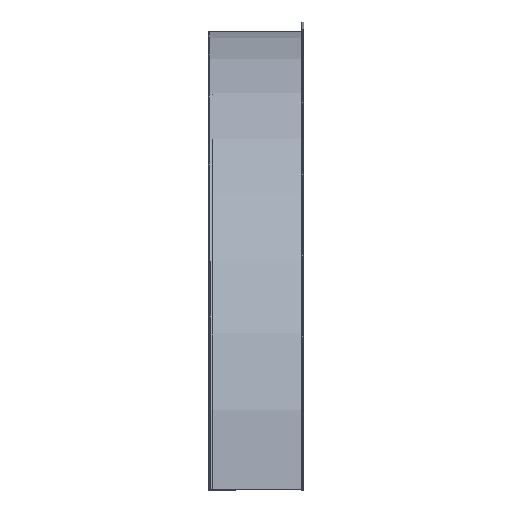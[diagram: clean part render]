
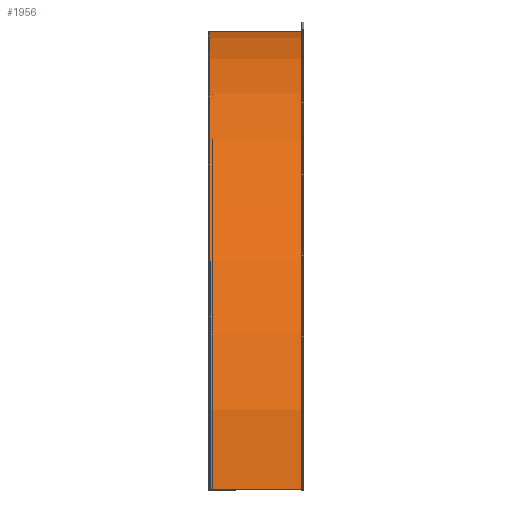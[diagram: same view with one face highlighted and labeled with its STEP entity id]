
A CAD part, left-side view. The second image highlights one B-rep face of the part: STEP entity #1956.
In plain terms, the highlighted cylindrical face has radius 386 mm (diameter 772 mm), a partial arc.
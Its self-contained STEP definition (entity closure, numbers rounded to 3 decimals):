
#185 = EDGE_CURVE ( 'NONE', #2433, #2055, #2457, .T. ) ;
#293 = DIRECTION ( 'NONE',  ( 0., 0., 1. ) ) ;
#518 = EDGE_CURVE ( 'NONE', #2808, #2225, #1393, .T. ) ;
#619 = CARTESIAN_POINT ( 'NONE',  ( 362.5, 79.5, 386. ) ) ;
#648 = DIRECTION ( 'NONE',  ( 0., 1., 0. ) ) ;
#805 = CARTESIAN_POINT ( 'NONE',  ( 362.5, 1.8, 386. ) ) ;
#813 = CARTESIAN_POINT ( 'NONE',  ( -23.5, 79.5, 0. ) ) ;
#982 = LINE ( 'NONE', #2140, #2342 ) ;
#997 = DIRECTION ( 'NONE',  ( 0., 1., 0. ) ) ;
#1002 = FACE_OUTER_BOUND ( 'NONE', #2926, .T. ) ;
#1175 = DIRECTION ( 'NONE',  ( -1., 0., 0. ) ) ;
#1205 = ORIENTED_EDGE ( 'NONE', *, *, #518, .F. ) ;
#1230 = CYLINDRICAL_SURFACE ( 'NONE', #1418, 386. ) ;
#1271 = CARTESIAN_POINT ( 'NONE',  ( 362.5, 0., 0. ) ) ;
#1290 = ORIENTED_EDGE ( 'NONE', *, *, #1523, .T. ) ;
#1343 = AXIS2_PLACEMENT_3D ( 'NONE', #2300, #648, #1587 ) ;
#1393 = CIRCLE ( 'NONE', #1343, 386. ) ;
#1418 = AXIS2_PLACEMENT_3D ( 'NONE', #1271, #997, #293 ) ;
#1419 = CARTESIAN_POINT ( 'NONE',  ( 362.5, 1.8, 0. ) ) ;
#1523 = EDGE_CURVE ( 'NONE', #2055, #2225, #1687, .T. ) ;
#1560 = ORIENTED_EDGE ( 'NONE', *, *, #185, .T. ) ;
#1587 = DIRECTION ( 'NONE',  ( -1., 0., 0. ) ) ;
#1687 = LINE ( 'NONE', #2064, #1814 ) ;
#1753 = EDGE_CURVE ( 'NONE', #2808, #2433, #982, .T. ) ;
#1814 = VECTOR ( 'NONE', #2772, 1000. ) ;
#1825 = AXIS2_PLACEMENT_3D ( 'NONE', #1419, #2112, #1175 ) ;
#1956 = ADVANCED_FACE ( 'NONE', ( #1002 ), #1230, .T. ) ;
#2055 = VERTEX_POINT ( 'NONE', #805 ) ;
#2064 = CARTESIAN_POINT ( 'NONE',  ( 362.5, 0., 386. ) ) ;
#2083 = ORIENTED_EDGE ( 'NONE', *, *, #1753, .T. ) ;
#2112 = DIRECTION ( 'NONE',  ( 0., 1., 0. ) ) ;
#2140 = CARTESIAN_POINT ( 'NONE',  ( -23.5, 1.8, 0. ) ) ;
#2225 = VERTEX_POINT ( 'NONE', #619 ) ;
#2300 = CARTESIAN_POINT ( 'NONE',  ( 362.5, 79.5, 0. ) ) ;
#2342 = VECTOR ( 'NONE', #2362, 1000. ) ;
#2362 = DIRECTION ( 'NONE',  ( 0., -1., 0. ) ) ;
#2433 = VERTEX_POINT ( 'NONE', #2558 ) ;
#2457 = CIRCLE ( 'NONE', #1825, 386. ) ;
#2558 = CARTESIAN_POINT ( 'NONE',  ( -23.5, 1.8, 0. ) ) ;
#2772 = DIRECTION ( 'NONE',  ( 0., 1., 0. ) ) ;
#2808 = VERTEX_POINT ( 'NONE', #813 ) ;
#2926 = EDGE_LOOP ( 'NONE', ( #1560, #1290, #1205, #2083 ) ) ;
